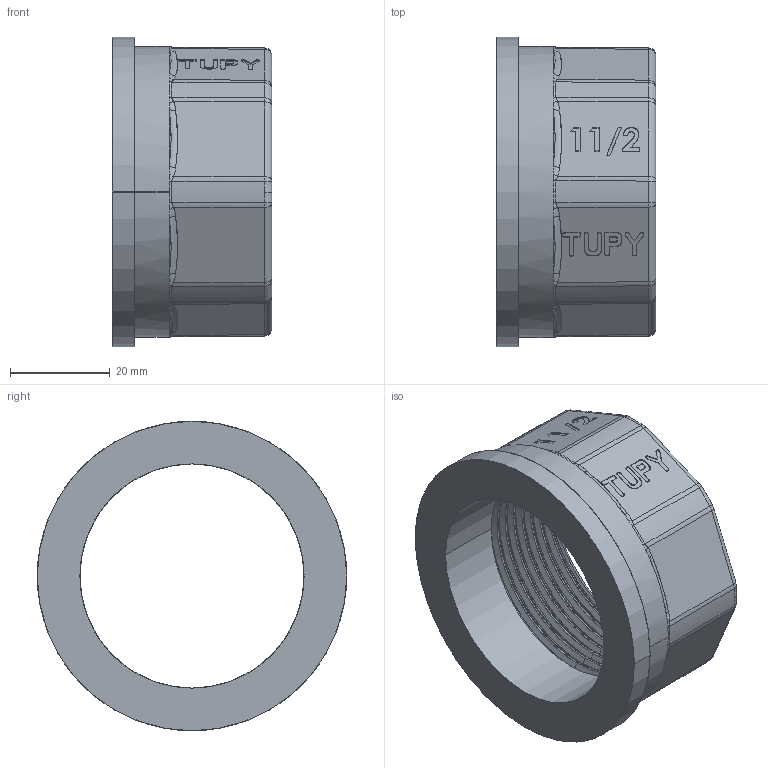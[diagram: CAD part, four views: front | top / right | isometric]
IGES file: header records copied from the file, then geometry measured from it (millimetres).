
Start section: SolidWorks IGES file using analytic representation for surfaces
Global section: file name: C:\Users\Joel Rosa\Desktop\Tubulação\12-83-OK\12-83-009.IGS; native system: SolidWorks 2011; preprocessor: SolidWorks 2011; author: Joel Rosa; date: 131217.000056; units: millimetre
Bounding box: 32 x 62 x 62 mm (x, y, z)
Surface area: 14771.9 mm2 (no closed solid volume)
Topology: 0 solids, 0 shells, 311 faces, 2431 edges, 2431 vertices
Faces by surface type: bspline 246, revolution 65
